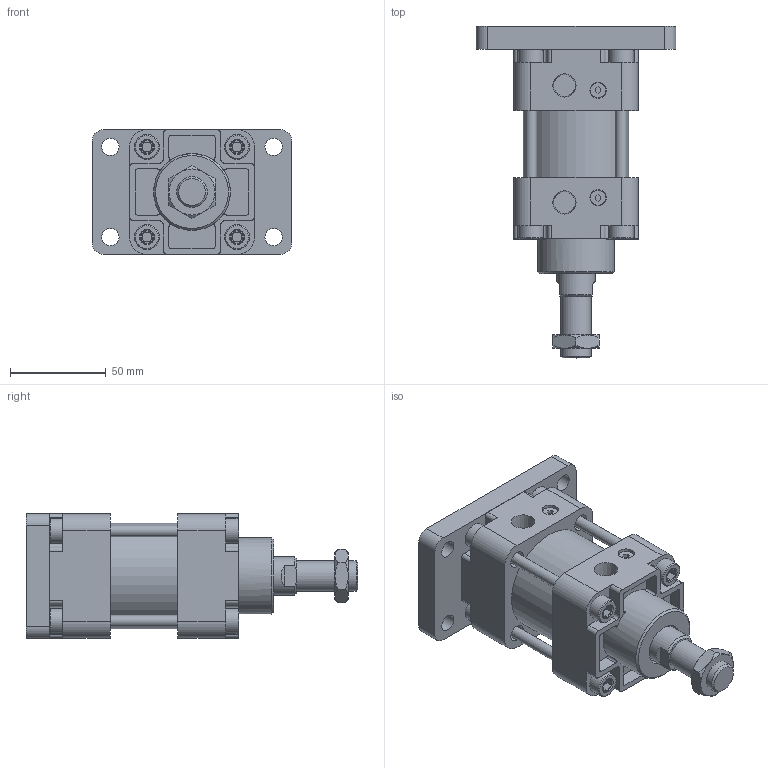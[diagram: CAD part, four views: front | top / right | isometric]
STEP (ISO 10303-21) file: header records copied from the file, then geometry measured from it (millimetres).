
FILE_DESCRIPTION(/* description */ ('Unknown'),/* implementation_level */ '2;1');
FILE_NAME(/* name */ 'WA50-0-FB',/* time_stamp */ '2026-07-17T16:52:18+08:00',/* author */ ('Unknown'),/* organization */ ('Unknown'),/* preprocessor_version */ 'ST-DEVELOPER v16.7',/* originating_system */ 'DEX',/* authorisation */ $);
FILE_SCHEMA (('CONFIG_CONTROL_DESIGN'));
Length unit declared in the file: millimetre
Products named in the file (8): WA50-0-FB; WA50_前; WA50_鋁; WA50_岃搵; WA50_心軸活; WA50_FA; M16-1.5P-8_螺; WA50_T帽牙T
Assembly tree (10 placements, depth 2):
  WA50-0-FB
    WA50_前
    WA50_鋁
    WA50_岃搵
    WA50_心軸活
    WA50_FA
    M16-1.5P-8_螺
    WA50_T帽牙T  x4
Bounding box: 104 x 173 x 65 mm (x, y, z)
Volume: 414277.9 mm3; surface area: 108395.6 mm2
Topology: 10 solids, 10 shells, 387 faces, 940 edges, 634 vertices
Faces by surface type: plane 215, cylinder 135, cone 37
Full cylindrical faces by diameter (mm): 5 x8, 6 x4, 7 x4, 8 x2, 8.5 x2, 8.8 x8, 9 x12, 11 x4, 13 x8, 14.5 x1, 16 x1, 20 x2, 40 x1, 42 x1, 49.5 x1, 50 x3, 55 x1
Entity records: 10073 total; most frequent: CARTESIAN_POINT 1483, DIRECTION 1462, ORIENTED_EDGE 1274, EDGE_CURVE 637, AXIS2_PLACEMENT_3D 560, VERTEX_POINT 453, EDGE_LOOP 406, FACE_BOUND 406
